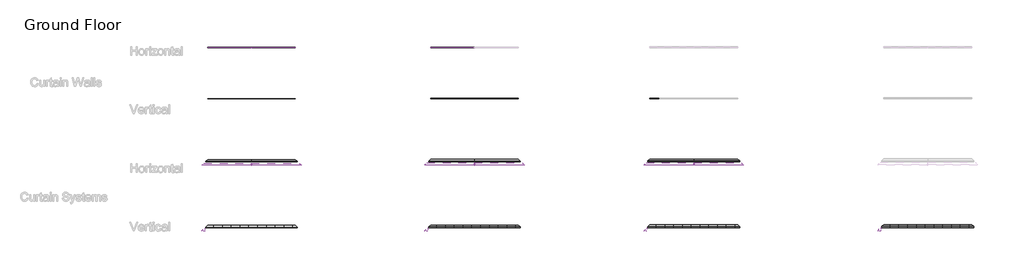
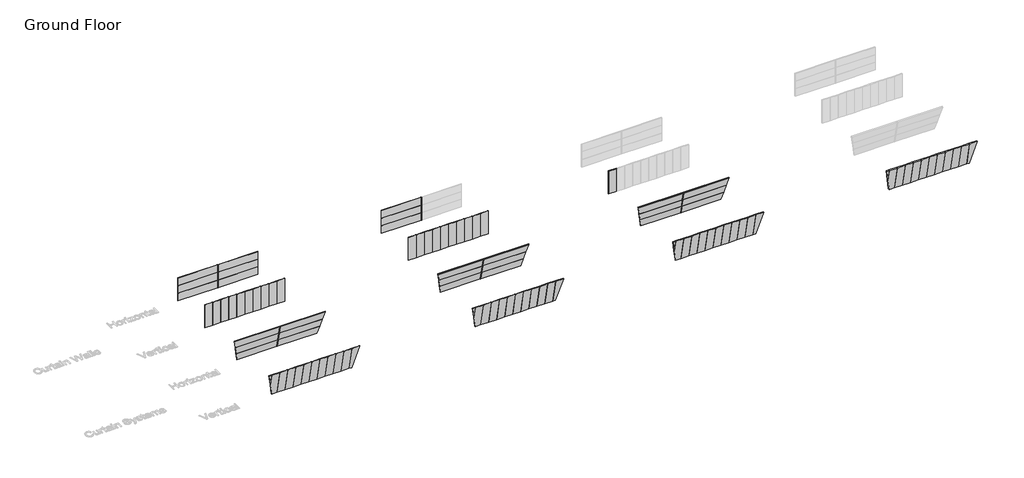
# One storey, part 1 of 9: 102 plates, 18 members.
"""IFC4 building model written with IfcOpenShell, lengths in millimetres."""

from ifc_helpers import new_model, si_unit, origin, place, context, project, spatial, transform, mapped, element, save
from components import rectangular_mullion_pi_mullion_20gap_50depth_70width_142a5764, rectangular_mullion_pi_mullion_20gap_50depth_70width_9113199f, rectangular_mullion_pi_mullion_20gap_50depth_70width_d0ed6173, system_panel_8d9bcd60, system_panel_b93e07dd, system_panel_ced8f9d4, system_panel_d58b1396, system_panel_276d5853, system_panel_b8428c64, system_panel_244e55d7, system_panel_0e52adfc, system_panel_2103b3a6, system_panel_ce3216b0, system_panel_0e282976, system_panel_e06f3d7a, system_panel_110e811f, system_panel_6bba82fc, system_panel_1b485f75, system_panel_cb7dd1a5, system_panel_4acd45eb, system_panel_78934fff, system_panel_72fa3ca7, system_panel_3fc49958, system_panel_d652f9f4, system_panel_3d751c13, system_panel_4883f5bf, system_panel_101b86df, system_panel_32c90c44, system_panel_d230c9b8, system_panel_7c3fa75b, system_panel_0fe4f62d, system_panel_25976524, system_panel_a48a017a, system_panel_09f4cd06, system_panel_fafe6fdc, system_panel_5e4a4081, system_panel_ca416656, system_panel_57769627, system_panel_d40e5325, system_panel_f51c096d, system_panel_121b9ab8, system_panel_6a607702, system_panel_575ef650, system_panel_7e135db5, system_panel_39dc967e, system_panel_6e7626b0, system_panel_ea4dad86, system_panel_5c141952

model = new_model("IFC4")

# Units and contexts
model_context = context("Model", 3, world=origin())
ifc_project = project(units=[si_unit("LENGTHUNIT", "METRE", prefix="MILLI")], contexts=[model_context])

# Site, building, storey
site = spatial("IfcSite", under=ifc_project)
building = spatial("IfcBuilding", under=site)
storey = spatial("IfcBuildingStorey", under=building, Name="Ground Floor", Elevation=0.0)

# Members
placement = place(None, origin())
rectangular_mullion_pi_mullion_20gap_50depth_70width_shape = rectangular_mullion_pi_mullion_20gap_50depth_70width_142a5764(model_context)
element("IfcMember", 1, ObjectType="Rectangular Mullion : PI-Mullion - 20Gap-50Depth-70Width", at=placement, inside=storey, context=model_context, shape_type="MappedRepresentation", body=[
    mapped(rectangular_mullion_pi_mullion_20gap_50depth_70width_shape, transform((29629.2463003, 1262.9233771, 3600.0), x_axis=(-1.0, 0.0, 0.0), y_axis=(0.0, -0.978268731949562, -0.20734099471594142), z_axis=(0.0, -0.20734099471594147, 0.9782687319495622))),
])
element("IfcMember", 2, ObjectType="Rectangular Mullion : PI-Mullion - 20Gap-50Depth-70Width", at=placement, inside=storey, context=model_context, shape_type="MappedRepresentation", body=[
    mapped(rectangular_mullion_pi_mullion_20gap_50depth_70width_shape, transform((-870.7536997, 1262.9233771, 3600.0), x_axis=(-1.0, 0.0, 0.0), y_axis=(0.0, -0.978268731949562, -0.20734099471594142), z_axis=(0.0, -0.20734099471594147, 0.9782687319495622))),
])
element("IfcMember", 3, ObjectType="Rectangular Mullion : PI-Mullion - 20Gap-50Depth-70Width", at=placement, inside=storey, context=model_context, shape_type="MappedRepresentation", body=[
    mapped(rectangular_mullion_pi_mullion_20gap_50depth_70width_shape, transform((59629.2463003, 1262.9233771, 3600.0), x_axis=(-1.0, 0.0, 0.0), y_axis=(0.0, -0.978268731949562, -0.20734099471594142), z_axis=(0.0, -0.20734099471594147, 0.9782687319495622))),
])
rectangular_mullion_pi_mullion_20gap_50depth_70width_2_shape = rectangular_mullion_pi_mullion_20gap_50depth_70width_9113199f(model_context)
element("IfcMember", 4, ObjectType="Rectangular Mullion : PI-Mullion - 20Gap-50Depth-70Width", at=placement, inside=storey, context=model_context, shape_type="MappedRepresentation", body=[
    mapped(rectangular_mullion_pi_mullion_20gap_50depth_70width_2_shape, transform((29629.2463003, 1777.1229116, 1173.9224783), x_axis=(-1.0, 0.0, 0.0), y_axis=(0.0, -0.978268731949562, -0.20734099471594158), z_axis=(0.0, -0.20734099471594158, 0.978268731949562))),
])
element("IfcMember", 5, ObjectType="Rectangular Mullion : PI-Mullion - 20Gap-50Depth-70Width", at=placement, inside=storey, context=model_context, shape_type="MappedRepresentation", body=[
    mapped(rectangular_mullion_pi_mullion_20gap_50depth_70width_2_shape, transform((-870.7536997, 1777.1229116, 1173.9224783), x_axis=(-1.0, 0.0, 0.0), y_axis=(0.0, -0.978268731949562, -0.20734099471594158), z_axis=(0.0, -0.20734099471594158, 0.978268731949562))),
])
element("IfcMember", 6, ObjectType="Rectangular Mullion : PI-Mullion - 20Gap-50Depth-70Width", at=placement, inside=storey, context=model_context, shape_type="MappedRepresentation", body=[
    mapped(rectangular_mullion_pi_mullion_20gap_50depth_70width_2_shape, transform((59629.2463003, 1777.1229116, 1173.9224783), x_axis=(-1.0, 0.0, 0.0), y_axis=(0.0, -0.978268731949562, -0.20734099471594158), z_axis=(0.0, -0.20734099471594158, 0.978268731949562))),
])
element("IfcMember", 7, ObjectType="Rectangular Mullion : PI-Mullion - 20Gap-50Depth-70Width", at=placement, inside=storey, context=model_context, shape_type="MappedRepresentation", body=[
    mapped(rectangular_mullion_pi_mullion_20gap_50depth_70width_2_shape, transform((29629.2463003, 1528.313718, 2347.8449567), x_axis=(-1.0, 0.0, 0.0), y_axis=(0.0, -0.978268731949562, -0.2073409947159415), z_axis=(0.0, -0.2073409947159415, 0.978268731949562))),
])
element("IfcMember", 8, ObjectType="Rectangular Mullion : PI-Mullion - 20Gap-50Depth-70Width", at=placement, inside=storey, context=model_context, shape_type="MappedRepresentation", body=[
    mapped(rectangular_mullion_pi_mullion_20gap_50depth_70width_2_shape, transform((29629.2463003, 1279.5045243, 3521.767435), x_axis=(-1.0, 0.0, 0.0), y_axis=(0.0, -0.978268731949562, -0.20734099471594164), z_axis=(0.0, -0.2073409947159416, 0.9782687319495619))),
])
element("IfcMember", 9, ObjectType="Rectangular Mullion : PI-Mullion - 20Gap-50Depth-70Width", at=placement, inside=storey, context=model_context, shape_type="MappedRepresentation", body=[
    mapped(rectangular_mullion_pi_mullion_20gap_50depth_70width_2_shape, transform((-870.7536997, 1528.313718, 2347.8449567), x_axis=(-1.0, 0.0, 0.0), y_axis=(0.0, -0.978268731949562, -0.2073409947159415), z_axis=(0.0, -0.2073409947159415, 0.978268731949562))),
])
element("IfcMember", 10, ObjectType="Rectangular Mullion : PI-Mullion - 20Gap-50Depth-70Width", at=placement, inside=storey, context=model_context, shape_type="MappedRepresentation", body=[
    mapped(rectangular_mullion_pi_mullion_20gap_50depth_70width_2_shape, transform((-870.7536997, 1279.5045243, 3521.767435), x_axis=(-1.0, 0.0, 0.0), y_axis=(0.0, -0.978268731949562, -0.20734099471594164), z_axis=(0.0, -0.2073409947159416, 0.9782687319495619))),
])
element("IfcMember", 11, ObjectType="Rectangular Mullion : PI-Mullion - 20Gap-50Depth-70Width", at=placement, inside=storey, context=model_context, shape_type="MappedRepresentation", body=[
    mapped(rectangular_mullion_pi_mullion_20gap_50depth_70width_2_shape, transform((59629.2463003, 1528.313718, 2347.8449567), x_axis=(-1.0, 0.0, 0.0), y_axis=(0.0, -0.978268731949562, -0.2073409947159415), z_axis=(0.0, -0.2073409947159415, 0.978268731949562))),
])
element("IfcMember", 12, ObjectType="Rectangular Mullion : PI-Mullion - 20Gap-50Depth-70Width", at=placement, inside=storey, context=model_context, shape_type="MappedRepresentation", body=[
    mapped(rectangular_mullion_pi_mullion_20gap_50depth_70width_2_shape, transform((59629.2463003, 1279.5045243, 3521.767435), x_axis=(-1.0, 0.0, 0.0), y_axis=(0.0, -0.978268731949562, -0.20734099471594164), z_axis=(0.0, -0.2073409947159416, 0.9782687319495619))),
])
rectangular_mullion_pi_mullion_20gap_50depth_70width_3_shape = rectangular_mullion_pi_mullion_20gap_50depth_70width_d0ed6173(model_context)
element("IfcMember", 13, ObjectType="Rectangular Mullion : PI-Mullion - 20Gap-50Depth-70Width", at=placement, inside=storey, context=model_context, shape_type="MappedRepresentation", body=[
    mapped(rectangular_mullion_pi_mullion_20gap_50depth_70width_3_shape, transform((-870.7536997, 17365.9321053, 0.0), x_axis=(1.0, 0.0, 0.0), y_axis=(0.0, -1.0, 0.0), z_axis=(0.0, 0.0, -1.0))),
])
element("IfcMember", 14, ObjectType="Rectangular Mullion : PI-Mullion - 20Gap-50Depth-70Width", at=placement, inside=storey, context=model_context, shape_type="MappedRepresentation", body=[
    mapped(rectangular_mullion_pi_mullion_20gap_50depth_70width_3_shape, transform((29629.2463003, 17365.9321053, 0.0), x_axis=(1.0, 0.0, 0.0), y_axis=(0.0, -1.0, 0.0), z_axis=(0.0, 0.0, -1.0))),
])
element("IfcMember", 15, ObjectType="Rectangular Mullion : PI-Mullion - 20Gap-50Depth-70Width", at=placement, inside=storey, context=model_context, shape_type="MappedRepresentation", body=[
    mapped(rectangular_mullion_pi_mullion_20gap_50depth_70width_3_shape, transform((-870.7536997, 17365.9321053, 1200.0), x_axis=(1.0, 0.0, 0.0), y_axis=(0.0, -1.0, 0.0), z_axis=(0.0, 0.0, -1.0))),
])
element("IfcMember", 16, ObjectType="Rectangular Mullion : PI-Mullion - 20Gap-50Depth-70Width", at=placement, inside=storey, context=model_context, shape_type="MappedRepresentation", body=[
    mapped(rectangular_mullion_pi_mullion_20gap_50depth_70width_3_shape, transform((29629.2463003, 17365.9321053, 1200.0), x_axis=(1.0, 0.0, 0.0), y_axis=(0.0, -1.0, 0.0), z_axis=(0.0, 0.0, -1.0))),
])
element("IfcMember", 17, ObjectType="Rectangular Mullion : PI-Mullion - 20Gap-50Depth-70Width", at=placement, inside=storey, context=model_context, shape_type="MappedRepresentation", body=[
    mapped(rectangular_mullion_pi_mullion_20gap_50depth_70width_3_shape, transform((-870.7536997, 17365.9321053, 2400.0), x_axis=(1.0, 0.0, 0.0), y_axis=(0.0, -1.0, 0.0), z_axis=(0.0, 0.0, -1.0))),
])
element("IfcMember", 18, ObjectType="Rectangular Mullion : PI-Mullion - 20Gap-50Depth-70Width", at=placement, inside=storey, context=model_context, shape_type="MappedRepresentation", body=[
    mapped(rectangular_mullion_pi_mullion_20gap_50depth_70width_3_shape, transform((29629.2463003, 17365.9321053, 2400.0), x_axis=(1.0, 0.0, 0.0), y_axis=(0.0, -1.0, 0.0), z_axis=(0.0, 0.0, -1.0))),
])

# Plates
system_panel_shape = system_panel_8d9bcd60(model_context)
element("IfcPlate", 19, ObjectType="System Panel : Equitilt_FlameGuard_50mm_Plain_Surfmist", at=placement, inside=storey, context=model_context, shape_type="MappedRepresentation", body=[
    mapped(system_panel_shape, transform((5329.2463003, -6974.0678947, 0.0), x_axis=(-1.0, 0.0, 0.0), y_axis=(0.0, -0.978268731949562, -0.20734099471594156), z_axis=(0.0, -0.20734099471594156, 0.978268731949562))),
])
system_panel_2_shape = system_panel_b93e07dd(model_context)
element("IfcPlate", 20, ObjectType="System Panel : Equitilt_FlameGuard_50mm_Plain_Surfmist", at=placement, inside=storey, context=model_context, shape_type="MappedRepresentation", body=[
    mapped(system_panel_2_shape, transform((4129.2463003, -6974.0678947, 0.0), x_axis=(-1.0, 0.0, 0.0), y_axis=(0.0, -0.978268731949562, -0.20734099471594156), z_axis=(0.0, -0.20734099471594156, 0.978268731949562))),
])
element("IfcPlate", 21, ObjectType="System Panel : Equitilt_FlameGuard_50mm_Plain_Surfmist", at=placement, inside=storey, context=model_context, shape_type="MappedRepresentation", body=[
    mapped(system_panel_2_shape, transform((2929.2463003, -6974.0678947, 0.0), x_axis=(-1.0, 0.0, 0.0), y_axis=(0.0, -0.978268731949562, -0.20734099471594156), z_axis=(0.0, -0.20734099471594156, 0.978268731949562))),
])
element("IfcPlate", 22, ObjectType="System Panel : Equitilt_FlameGuard_50mm_Plain_Surfmist", at=placement, inside=storey, context=model_context, shape_type="MappedRepresentation", body=[
    mapped(system_panel_2_shape, transform((1729.2463003, -6974.0678947, 0.0), x_axis=(-1.0, 0.0, 0.0), y_axis=(0.0, -0.978268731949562, -0.20734099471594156), z_axis=(0.0, -0.20734099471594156, 0.978268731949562))),
])
element("IfcPlate", 23, ObjectType="System Panel : Equitilt_FlameGuard_50mm_Plain_Surfmist", at=placement, inside=storey, context=model_context, shape_type="MappedRepresentation", body=[
    mapped(system_panel_2_shape, transform((529.2463003, -6974.0678947, 0.0), x_axis=(-1.0, 0.0, 0.0), y_axis=(0.0, -0.978268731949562, -0.20734099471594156), z_axis=(0.0, -0.20734099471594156, 0.978268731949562))),
])
element("IfcPlate", 24, ObjectType="System Panel : Equitilt_FlameGuard_50mm_Plain_Surfmist", at=placement, inside=storey, context=model_context, shape_type="MappedRepresentation", body=[
    mapped(system_panel_2_shape, transform((-670.7536997, -6974.0678947, 0.0), x_axis=(-1.0, 0.0, 0.0), y_axis=(0.0, -0.978268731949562, -0.20734099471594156), z_axis=(0.0, -0.20734099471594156, 0.978268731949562))),
])
element("IfcPlate", 25, ObjectType="System Panel : Equitilt_FlameGuard_50mm_Plain_Surfmist", at=placement, inside=storey, context=model_context, shape_type="MappedRepresentation", body=[
    mapped(system_panel_2_shape, transform((-1870.7536997, -6974.0678947, 0.0), x_axis=(-1.0, 0.0, 0.0), y_axis=(0.0, -0.978268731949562, -0.20734099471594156), z_axis=(0.0, -0.20734099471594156, 0.978268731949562))),
])
element("IfcPlate", 26, ObjectType="System Panel : Equitilt_FlameGuard_50mm_Plain_Surfmist", at=placement, inside=storey, context=model_context, shape_type="MappedRepresentation", body=[
    mapped(system_panel_2_shape, transform((-3070.7536997, -6974.0678947, 0.0), x_axis=(-1.0, 0.0, 0.0), y_axis=(0.0, -0.978268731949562, -0.20734099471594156), z_axis=(0.0, -0.20734099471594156, 0.978268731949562))),
])
element("IfcPlate", 27, ObjectType="System Panel : Equitilt_FlameGuard_50mm_Plain_Surfmist", at=placement, inside=storey, context=model_context, shape_type="MappedRepresentation", body=[
    mapped(system_panel_2_shape, transform((-4270.7536997, -6974.0678947, 0.0), x_axis=(-1.0, 0.0, 0.0), y_axis=(0.0, -0.978268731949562, -0.20734099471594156), z_axis=(0.0, -0.20734099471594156, 0.978268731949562))),
])
element("IfcPlate", 28, ObjectType="System Panel : Equitilt_FlameGuard_50mm_Plain_Surfmist", at=placement, inside=storey, context=model_context, shape_type="MappedRepresentation", body=[
    mapped(system_panel_2_shape, transform((-5470.7536997, -6974.0678947, 0.0), x_axis=(-1.0, 0.0, 0.0), y_axis=(0.0, -0.978268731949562, -0.20734099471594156), z_axis=(0.0, -0.20734099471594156, 0.978268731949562))),
])
system_panel_3_shape = system_panel_ced8f9d4(model_context)
element("IfcPlate", 29, ObjectType="System Panel : Equitilt_FlameGuard_50mm_Plain_Surfmist", at=placement, inside=storey, context=model_context, shape_type="MappedRepresentation", body=[
    mapped(system_panel_3_shape, transform((-6670.7536997, -6974.0678947, 0.0), x_axis=(-1.0, 0.0, 0.0), y_axis=(0.0, -0.978268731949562, -0.20734099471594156), z_axis=(0.0, -0.20734099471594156, 0.978268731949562))),
])
system_panel_4_shape = system_panel_d58b1396(model_context)
element("IfcPlate", 30, ObjectType="System Panel : Equitilt_FlameGuard_50mm_Plain_Surfmist", at=placement, inside=storey, context=model_context, shape_type="MappedRepresentation", body=[
    mapped(system_panel_4_shape, transform((-7470.7536997, -7355.5722588, 1800.0), x_axis=(-1.0, 0.0, 0.0), y_axis=(0.0, -0.978268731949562, -0.20734099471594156), z_axis=(0.0, -0.20734099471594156, 0.978268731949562))),
])
system_panel_5_shape = system_panel_276d5853(model_context)
element("IfcPlate", 31, ObjectType="System Panel : Equitilt_FlameGuard_75mm_Plain_Surfmist", at=placement, inside=storey, context=model_context, shape_type="MappedRepresentation", body=[
    mapped(system_panel_5_shape, transform((35829.2463003, -6974.0678947, 0.0), x_axis=(-1.0, 0.0, 0.0), y_axis=(0.0, -0.978268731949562, -0.20734099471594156), z_axis=(0.0, -0.20734099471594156, 0.978268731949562))),
])
system_panel_6_shape = system_panel_b8428c64(model_context)
element("IfcPlate", 32, ObjectType="System Panel : Equitilt_FlameGuard_75mm_Plain_Surfmist", at=placement, inside=storey, context=model_context, shape_type="MappedRepresentation", body=[
    mapped(system_panel_6_shape, transform((34629.2463003, -6974.0678947, 0.0), x_axis=(-1.0, 0.0, 0.0), y_axis=(0.0, -0.978268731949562, -0.20734099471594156), z_axis=(0.0, -0.20734099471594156, 0.978268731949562))),
])
element("IfcPlate", 33, ObjectType="System Panel : Equitilt_FlameGuard_75mm_Plain_Surfmist", at=placement, inside=storey, context=model_context, shape_type="MappedRepresentation", body=[
    mapped(system_panel_6_shape, transform((33429.2463003, -6974.0678947, 0.0), x_axis=(-1.0, 0.0, 0.0), y_axis=(0.0, -0.978268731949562, -0.20734099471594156), z_axis=(0.0, -0.20734099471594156, 0.978268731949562))),
])
element("IfcPlate", 34, ObjectType="System Panel : Equitilt_FlameGuard_75mm_Plain_Surfmist", at=placement, inside=storey, context=model_context, shape_type="MappedRepresentation", body=[
    mapped(system_panel_6_shape, transform((32229.2463003, -6974.0678947, 0.0), x_axis=(-1.0, 0.0, 0.0), y_axis=(0.0, -0.978268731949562, -0.20734099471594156), z_axis=(0.0, -0.20734099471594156, 0.978268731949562))),
])
element("IfcPlate", 35, ObjectType="System Panel : Equitilt_FlameGuard_75mm_Plain_Surfmist", at=placement, inside=storey, context=model_context, shape_type="MappedRepresentation", body=[
    mapped(system_panel_6_shape, transform((31029.2463003, -6974.0678947, 0.0), x_axis=(-1.0, 0.0, 0.0), y_axis=(0.0, -0.978268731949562, -0.20734099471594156), z_axis=(0.0, -0.20734099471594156, 0.978268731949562))),
])
element("IfcPlate", 36, ObjectType="System Panel : Equitilt_FlameGuard_75mm_Plain_Surfmist", at=placement, inside=storey, context=model_context, shape_type="MappedRepresentation", body=[
    mapped(system_panel_6_shape, transform((29829.2463003, -6974.0678947, 0.0), x_axis=(-1.0, 0.0, 0.0), y_axis=(0.0, -0.978268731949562, -0.20734099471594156), z_axis=(0.0, -0.20734099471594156, 0.978268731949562))),
])
element("IfcPlate", 37, ObjectType="System Panel : Equitilt_FlameGuard_75mm_Plain_Surfmist", at=placement, inside=storey, context=model_context, shape_type="MappedRepresentation", body=[
    mapped(system_panel_6_shape, transform((28629.2463003, -6974.0678947, 0.0), x_axis=(-1.0, 0.0, 0.0), y_axis=(0.0, -0.978268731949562, -0.20734099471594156), z_axis=(0.0, -0.20734099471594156, 0.978268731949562))),
])
element("IfcPlate", 38, ObjectType="System Panel : Equitilt_FlameGuard_75mm_Plain_Surfmist", at=placement, inside=storey, context=model_context, shape_type="MappedRepresentation", body=[
    mapped(system_panel_6_shape, transform((27429.2463003, -6974.0678947, 0.0), x_axis=(-1.0, 0.0, 0.0), y_axis=(0.0, -0.978268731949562, -0.20734099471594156), z_axis=(0.0, -0.20734099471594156, 0.978268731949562))),
])
element("IfcPlate", 39, ObjectType="System Panel : Equitilt_FlameGuard_75mm_Plain_Surfmist", at=placement, inside=storey, context=model_context, shape_type="MappedRepresentation", body=[
    mapped(system_panel_6_shape, transform((26229.2463003, -6974.0678947, 0.0), x_axis=(-1.0, 0.0, 0.0), y_axis=(0.0, -0.978268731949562, -0.20734099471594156), z_axis=(0.0, -0.20734099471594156, 0.978268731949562))),
])
element("IfcPlate", 40, ObjectType="System Panel : Equitilt_FlameGuard_75mm_Plain_Surfmist", at=placement, inside=storey, context=model_context, shape_type="MappedRepresentation", body=[
    mapped(system_panel_6_shape, transform((25029.2463003, -6974.0678947, 0.0), x_axis=(-1.0, 0.0, 0.0), y_axis=(0.0, -0.978268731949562, -0.20734099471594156), z_axis=(0.0, -0.20734099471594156, 0.978268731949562))),
])
system_panel_7_shape = system_panel_244e55d7(model_context)
element("IfcPlate", 41, ObjectType="System Panel : Equitilt_FlameGuard_75mm_Plain_Surfmist", at=placement, inside=storey, context=model_context, shape_type="MappedRepresentation", body=[
    mapped(system_panel_7_shape, transform((23829.2463003, -6974.0678947, 0.0), x_axis=(-1.0, 0.0, 0.0), y_axis=(0.0, -0.978268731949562, -0.20734099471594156), z_axis=(0.0, -0.20734099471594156, 0.978268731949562))),
])
system_panel_8_shape = system_panel_0e52adfc(model_context)
element("IfcPlate", 42, ObjectType="System Panel : Equitilt_FlameGuard_75mm_Plain_Surfmist", at=placement, inside=storey, context=model_context, shape_type="MappedRepresentation", body=[
    mapped(system_panel_8_shape, transform((23029.2463003, -7355.5722588, 1800.0), x_axis=(-1.0, 0.0, 0.0), y_axis=(0.0, -0.978268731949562, -0.20734099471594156), z_axis=(0.0, -0.20734099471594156, 0.978268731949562))),
])
system_panel_9_shape = system_panel_2103b3a6(model_context)
element("IfcPlate", 43, ObjectType="System Panel : Equitilt_FlameGuard_100mm_Plain_Surfmist", at=placement, inside=storey, context=model_context, shape_type="MappedRepresentation", body=[
    mapped(system_panel_9_shape, transform((65829.2463003, -6974.0678947, 0.0), x_axis=(-1.0, 0.0, 0.0), y_axis=(0.0, -0.978268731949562, -0.20734099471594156), z_axis=(0.0, -0.20734099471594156, 0.978268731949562))),
])
system_panel_10_shape = system_panel_ce3216b0(model_context)
element("IfcPlate", 44, ObjectType="System Panel : Equitilt_FlameGuard_100mm_Plain_Surfmist", at=placement, inside=storey, context=model_context, shape_type="MappedRepresentation", body=[
    mapped(system_panel_10_shape, transform((64629.2463003, -6974.0678947, 0.0), x_axis=(-1.0, 0.0, 0.0), y_axis=(0.0, -0.978268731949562, -0.20734099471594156), z_axis=(0.0, -0.20734099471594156, 0.978268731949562))),
])
element("IfcPlate", 45, ObjectType="System Panel : Equitilt_FlameGuard_100mm_Plain_Surfmist", at=placement, inside=storey, context=model_context, shape_type="MappedRepresentation", body=[
    mapped(system_panel_10_shape, transform((63429.2463003, -6974.0678947, 0.0), x_axis=(-1.0, 0.0, 0.0), y_axis=(0.0, -0.978268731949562, -0.20734099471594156), z_axis=(0.0, -0.20734099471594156, 0.978268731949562))),
])
element("IfcPlate", 46, ObjectType="System Panel : Equitilt_FlameGuard_100mm_Plain_Surfmist", at=placement, inside=storey, context=model_context, shape_type="MappedRepresentation", body=[
    mapped(system_panel_10_shape, transform((62229.2463003, -6974.0678947, 0.0), x_axis=(-1.0, 0.0, 0.0), y_axis=(0.0, -0.978268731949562, -0.20734099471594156), z_axis=(0.0, -0.20734099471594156, 0.978268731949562))),
])
element("IfcPlate", 47, ObjectType="System Panel : Equitilt_FlameGuard_100mm_Plain_Surfmist", at=placement, inside=storey, context=model_context, shape_type="MappedRepresentation", body=[
    mapped(system_panel_10_shape, transform((61029.2463003, -6974.0678947, 0.0), x_axis=(-1.0, 0.0, 0.0), y_axis=(0.0, -0.978268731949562, -0.20734099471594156), z_axis=(0.0, -0.20734099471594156, 0.978268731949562))),
])
element("IfcPlate", 48, ObjectType="System Panel : Equitilt_FlameGuard_100mm_Plain_Surfmist", at=placement, inside=storey, context=model_context, shape_type="MappedRepresentation", body=[
    mapped(system_panel_10_shape, transform((59829.2463003, -6974.0678947, 0.0), x_axis=(-1.0, 0.0, 0.0), y_axis=(0.0, -0.978268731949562, -0.20734099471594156), z_axis=(0.0, -0.20734099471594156, 0.978268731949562))),
])
element("IfcPlate", 49, ObjectType="System Panel : Equitilt_FlameGuard_100mm_Plain_Surfmist", at=placement, inside=storey, context=model_context, shape_type="MappedRepresentation", body=[
    mapped(system_panel_10_shape, transform((58629.2463003, -6974.0678947, 0.0), x_axis=(-1.0, 0.0, 0.0), y_axis=(0.0, -0.978268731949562, -0.20734099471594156), z_axis=(0.0, -0.20734099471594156, 0.978268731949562))),
])
element("IfcPlate", 50, ObjectType="System Panel : Equitilt_FlameGuard_100mm_Plain_Surfmist", at=placement, inside=storey, context=model_context, shape_type="MappedRepresentation", body=[
    mapped(system_panel_10_shape, transform((57429.2463003, -6974.0678947, 0.0), x_axis=(-1.0, 0.0, 0.0), y_axis=(0.0, -0.978268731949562, -0.20734099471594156), z_axis=(0.0, -0.20734099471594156, 0.978268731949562))),
])
element("IfcPlate", 51, ObjectType="System Panel : Equitilt_FlameGuard_100mm_Plain_Surfmist", at=placement, inside=storey, context=model_context, shape_type="MappedRepresentation", body=[
    mapped(system_panel_10_shape, transform((56229.2463003, -6974.0678947, 0.0), x_axis=(-1.0, 0.0, 0.0), y_axis=(0.0, -0.978268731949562, -0.20734099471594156), z_axis=(0.0, -0.20734099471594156, 0.978268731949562))),
])
element("IfcPlate", 52, ObjectType="System Panel : Equitilt_FlameGuard_100mm_Plain_Surfmist", at=placement, inside=storey, context=model_context, shape_type="MappedRepresentation", body=[
    mapped(system_panel_10_shape, transform((55029.2463003, -6974.0678947, 0.0), x_axis=(-1.0, 0.0, 0.0), y_axis=(0.0, -0.978268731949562, -0.20734099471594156), z_axis=(0.0, -0.20734099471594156, 0.978268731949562))),
])
system_panel_11_shape = system_panel_0e282976(model_context)
element("IfcPlate", 53, ObjectType="System Panel : Equitilt_FlameGuard_100mm_Plain_Surfmist", at=placement, inside=storey, context=model_context, shape_type="MappedRepresentation", body=[
    mapped(system_panel_11_shape, transform((53829.2463003, -6974.0678947, 0.0), x_axis=(-1.0, 0.0, 0.0), y_axis=(0.0, -0.978268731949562, -0.20734099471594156), z_axis=(0.0, -0.20734099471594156, 0.978268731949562))),
])
system_panel_12_shape = system_panel_e06f3d7a(model_context)
element("IfcPlate", 54, ObjectType="System Panel : Equitilt_FlameGuard_100mm_Plain_Surfmist", at=placement, inside=storey, context=model_context, shape_type="MappedRepresentation", body=[
    mapped(system_panel_12_shape, transform((53029.2463003, -7355.5722588, 1800.0), x_axis=(-1.0, 0.0, 0.0), y_axis=(0.0, -0.978268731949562, -0.20734099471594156), z_axis=(0.0, -0.20734099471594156, 0.978268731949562))),
])
system_panel_13_shape = system_panel_110e811f(model_context)
element("IfcPlate", 55, ObjectType="System Panel : Equitilt_FlameGuard_150mm_Plain_Surfmist", at=placement, inside=storey, context=model_context, shape_type="MappedRepresentation", body=[
    mapped(system_panel_13_shape, transform((97829.2463003, -6974.0678947, 0.0), x_axis=(-1.0, 0.0, 0.0), y_axis=(0.0, -0.978268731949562, -0.20734099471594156), z_axis=(0.0, -0.20734099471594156, 0.978268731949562))),
])
system_panel_14_shape = system_panel_6bba82fc(model_context)
element("IfcPlate", 56, ObjectType="System Panel : Equitilt_FlameGuard_150mm_Plain_Surfmist", at=placement, inside=storey, context=model_context, shape_type="MappedRepresentation", body=[
    mapped(system_panel_14_shape, transform((96629.2463003, -6974.0678947, 0.0), x_axis=(-1.0, 0.0, 0.0), y_axis=(0.0, -0.978268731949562, -0.20734099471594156), z_axis=(0.0, -0.20734099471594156, 0.978268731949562))),
])
element("IfcPlate", 57, ObjectType="System Panel : Equitilt_FlameGuard_150mm_Plain_Surfmist", at=placement, inside=storey, context=model_context, shape_type="MappedRepresentation", body=[
    mapped(system_panel_14_shape, transform((95429.2463003, -6974.0678947, 0.0), x_axis=(-1.0, 0.0, 0.0), y_axis=(0.0, -0.978268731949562, -0.20734099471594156), z_axis=(0.0, -0.20734099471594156, 0.978268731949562))),
])
element("IfcPlate", 58, ObjectType="System Panel : Equitilt_FlameGuard_150mm_Plain_Surfmist", at=placement, inside=storey, context=model_context, shape_type="MappedRepresentation", body=[
    mapped(system_panel_14_shape, transform((94229.2463003, -6974.0678947, 0.0), x_axis=(-1.0, 0.0, 0.0), y_axis=(0.0, -0.978268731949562, -0.20734099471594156), z_axis=(0.0, -0.20734099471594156, 0.978268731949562))),
])
element("IfcPlate", 59, ObjectType="System Panel : Equitilt_FlameGuard_150mm_Plain_Surfmist", at=placement, inside=storey, context=model_context, shape_type="MappedRepresentation", body=[
    mapped(system_panel_14_shape, transform((93029.2463003, -6974.0678947, 0.0), x_axis=(-1.0, 0.0, 0.0), y_axis=(0.0, -0.978268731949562, -0.20734099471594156), z_axis=(0.0, -0.20734099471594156, 0.978268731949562))),
])
element("IfcPlate", 60, ObjectType="System Panel : Equitilt_FlameGuard_150mm_Plain_Surfmist", at=placement, inside=storey, context=model_context, shape_type="MappedRepresentation", body=[
    mapped(system_panel_14_shape, transform((91829.2463003, -6974.0678947, 0.0), x_axis=(-1.0, 0.0, 0.0), y_axis=(0.0, -0.978268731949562, -0.20734099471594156), z_axis=(0.0, -0.20734099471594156, 0.978268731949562))),
])
element("IfcPlate", 61, ObjectType="System Panel : Equitilt_FlameGuard_150mm_Plain_Surfmist", at=placement, inside=storey, context=model_context, shape_type="MappedRepresentation", body=[
    mapped(system_panel_14_shape, transform((90629.2463003, -6974.0678947, 0.0), x_axis=(-1.0, 0.0, 0.0), y_axis=(0.0, -0.978268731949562, -0.20734099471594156), z_axis=(0.0, -0.20734099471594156, 0.978268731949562))),
])
element("IfcPlate", 62, ObjectType="System Panel : Equitilt_FlameGuard_150mm_Plain_Surfmist", at=placement, inside=storey, context=model_context, shape_type="MappedRepresentation", body=[
    mapped(system_panel_14_shape, transform((89429.2463003, -6974.0678947, 0.0), x_axis=(-1.0, 0.0, 0.0), y_axis=(0.0, -0.978268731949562, -0.20734099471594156), z_axis=(0.0, -0.20734099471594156, 0.978268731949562))),
])
element("IfcPlate", 63, ObjectType="System Panel : Equitilt_FlameGuard_150mm_Plain_Surfmist", at=placement, inside=storey, context=model_context, shape_type="MappedRepresentation", body=[
    mapped(system_panel_14_shape, transform((88229.2463003, -6974.0678947, 0.0), x_axis=(-1.0, 0.0, 0.0), y_axis=(0.0, -0.978268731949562, -0.20734099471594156), z_axis=(0.0, -0.20734099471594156, 0.978268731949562))),
])
element("IfcPlate", 64, ObjectType="System Panel : Equitilt_FlameGuard_150mm_Plain_Surfmist", at=placement, inside=storey, context=model_context, shape_type="MappedRepresentation", body=[
    mapped(system_panel_14_shape, transform((87029.2463003, -6974.0678947, 0.0), x_axis=(-1.0, 0.0, 0.0), y_axis=(0.0, -0.978268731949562, -0.20734099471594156), z_axis=(0.0, -0.20734099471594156, 0.978268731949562))),
])
system_panel_15_shape = system_panel_1b485f75(model_context)
element("IfcPlate", 65, ObjectType="System Panel : Equitilt_FlameGuard_150mm_Plain_Surfmist", at=placement, inside=storey, context=model_context, shape_type="MappedRepresentation", body=[
    mapped(system_panel_15_shape, transform((85829.2463003, -6974.0678947, 0.0), x_axis=(-1.0, 0.0, 0.0), y_axis=(0.0, -0.978268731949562, -0.20734099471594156), z_axis=(0.0, -0.20734099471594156, 0.978268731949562))),
])
system_panel_16_shape = system_panel_cb7dd1a5(model_context)
element("IfcPlate", 66, ObjectType="System Panel : Equitilt_FlameGuard_150mm_Plain_Surfmist", at=placement, inside=storey, context=model_context, shape_type="MappedRepresentation", body=[
    mapped(system_panel_16_shape, transform((85029.2463003, -7355.5722588, 1800.0), x_axis=(-1.0, 0.0, 0.0), y_axis=(0.0, -0.978268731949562, -0.20734099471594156), z_axis=(0.0, -0.20734099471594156, 0.978268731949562))),
])
system_panel_17_shape = system_panel_4acd45eb(model_context)
element("IfcPlate", 67, ObjectType="System Panel : Equitilt_FlameGuard_50mm_Plain_Surfmist", at=placement, inside=storey, context=model_context, shape_type="MappedRepresentation", body=[
    mapped(system_panel_17_shape, transform((-6270.7536997, 10365.9321053, 0.0), x_axis=(1.0, 0.0, 0.0), y_axis=(0.0, 1.0, 0.0), z_axis=(0.0, 0.0, 1.0))),
])
element("IfcPlate", 68, ObjectType="System Panel : Equitilt_FlameGuard_50mm_Plain_Surfmist", at=placement, inside=storey, context=model_context, shape_type="MappedRepresentation", body=[
    mapped(system_panel_17_shape, transform((-3870.7536997, 10365.9321053, 0.0), x_axis=(1.0, 0.0, 0.0), y_axis=(0.0, 1.0, 0.0), z_axis=(0.0, 0.0, 1.0))),
])
element("IfcPlate", 69, ObjectType="System Panel : Equitilt_FlameGuard_50mm_Plain_Surfmist", at=placement, inside=storey, context=model_context, shape_type="MappedRepresentation", body=[
    mapped(system_panel_17_shape, transform((-2670.7536997, 10365.9321053, 0.0), x_axis=(1.0, 0.0, 0.0), y_axis=(0.0, 1.0, 0.0), z_axis=(0.0, 0.0, 1.0))),
])
element("IfcPlate", 70, ObjectType="System Panel : Equitilt_FlameGuard_50mm_Plain_Surfmist", at=placement, inside=storey, context=model_context, shape_type="MappedRepresentation", body=[
    mapped(system_panel_17_shape, transform((-1470.7536997, 10365.9321053, 0.0), x_axis=(1.0, 0.0, 0.0), y_axis=(0.0, 1.0, 0.0), z_axis=(0.0, 0.0, 1.0))),
])
element("IfcPlate", 71, ObjectType="System Panel : Equitilt_FlameGuard_50mm_Plain_Surfmist", at=placement, inside=storey, context=model_context, shape_type="MappedRepresentation", body=[
    mapped(system_panel_17_shape, transform((-270.7536997, 10365.9321053, 0.0), x_axis=(1.0, 0.0, 0.0), y_axis=(0.0, 1.0, 0.0), z_axis=(0.0, 0.0, 1.0))),
])
element("IfcPlate", 72, ObjectType="System Panel : Equitilt_FlameGuard_50mm_Plain_Surfmist", at=placement, inside=storey, context=model_context, shape_type="MappedRepresentation", body=[
    mapped(system_panel_17_shape, transform((929.2463003, 10365.9321053, 0.0), x_axis=(1.0, 0.0, 0.0), y_axis=(0.0, 1.0, 0.0), z_axis=(0.0, 0.0, 1.0))),
])
element("IfcPlate", 73, ObjectType="System Panel : Equitilt_FlameGuard_50mm_Plain_Surfmist", at=placement, inside=storey, context=model_context, shape_type="MappedRepresentation", body=[
    mapped(system_panel_17_shape, transform((2129.2463003, 10365.9321053, 0.0), x_axis=(1.0, 0.0, 0.0), y_axis=(0.0, 1.0, 0.0), z_axis=(0.0, 0.0, 1.0))),
])
element("IfcPlate", 74, ObjectType="System Panel : Equitilt_FlameGuard_50mm_Plain_Surfmist", at=placement, inside=storey, context=model_context, shape_type="MappedRepresentation", body=[
    mapped(system_panel_17_shape, transform((3329.2463003, 10365.9321053, 0.0), x_axis=(1.0, 0.0, 0.0), y_axis=(0.0, 1.0, 0.0), z_axis=(0.0, 0.0, 1.0))),
])
element("IfcPlate", 75, ObjectType="System Panel : Equitilt_FlameGuard_50mm_Plain_Surfmist", at=placement, inside=storey, context=model_context, shape_type="MappedRepresentation", body=[
    mapped(system_panel_17_shape, transform((4529.2463003, 10365.9321053, 0.0), x_axis=(1.0, 0.0, 0.0), y_axis=(0.0, 1.0, 0.0), z_axis=(0.0, 0.0, 1.0))),
])
element("IfcPlate", 76, ObjectType="System Panel : Equitilt_FlameGuard_50mm_Plain_Surfmist", at=placement, inside=storey, context=model_context, shape_type="MappedRepresentation", body=[
    mapped(system_panel_17_shape, transform((-5070.7536997, 10365.9321053, 0.0), x_axis=(1.0, 0.0, 0.0), y_axis=(0.0, 1.0, 0.0), z_axis=(0.0, 0.0, 1.0))),
])
system_panel_18_shape = system_panel_78934fff(model_context)
element("IfcPlate", 77, ObjectType="System Panel : Equitilt_FlameGuard_100mm_Plain_Surfmist", at=placement, inside=storey, context=model_context, shape_type="MappedRepresentation", body=[
    mapped(system_panel_18_shape, transform((54229.2463003, 10365.9321053, 0.0), x_axis=(1.0, 0.0, 0.0), y_axis=(0.0, 1.0, 0.0), z_axis=(0.0, 0.0, 1.0))),
])
system_panel_19_shape = system_panel_72fa3ca7(model_context)
element("IfcPlate", 78, ObjectType="System Panel : Equitilt_FlameGuard_75mm_Plain_Surfmist", at=placement, inside=storey, context=model_context, shape_type="MappedRepresentation", body=[
    mapped(system_panel_19_shape, transform((24229.2463003, 10365.9321053, 0.0), x_axis=(1.0, 0.0, 0.0), y_axis=(0.0, 1.0, 0.0), z_axis=(0.0, 0.0, 1.0))),
])
element("IfcPlate", 79, ObjectType="System Panel : Equitilt_FlameGuard_75mm_Plain_Surfmist", at=placement, inside=storey, context=model_context, shape_type="MappedRepresentation", body=[
    mapped(system_panel_19_shape, transform((26629.2463003, 10365.9321053, 0.0), x_axis=(1.0, 0.0, 0.0), y_axis=(0.0, 1.0, 0.0), z_axis=(0.0, 0.0, 1.0))),
])
element("IfcPlate", 80, ObjectType="System Panel : Equitilt_FlameGuard_75mm_Plain_Surfmist", at=placement, inside=storey, context=model_context, shape_type="MappedRepresentation", body=[
    mapped(system_panel_19_shape, transform((27829.2463003, 10365.9321053, 0.0), x_axis=(1.0, 0.0, 0.0), y_axis=(0.0, 1.0, 0.0), z_axis=(0.0, 0.0, 1.0))),
])
element("IfcPlate", 81, ObjectType="System Panel : Equitilt_FlameGuard_75mm_Plain_Surfmist", at=placement, inside=storey, context=model_context, shape_type="MappedRepresentation", body=[
    mapped(system_panel_19_shape, transform((29029.2463003, 10365.9321053, 0.0), x_axis=(1.0, 0.0, 0.0), y_axis=(0.0, 1.0, 0.0), z_axis=(0.0, 0.0, 1.0))),
])
element("IfcPlate", 82, ObjectType="System Panel : Equitilt_FlameGuard_75mm_Plain_Surfmist", at=placement, inside=storey, context=model_context, shape_type="MappedRepresentation", body=[
    mapped(system_panel_19_shape, transform((30229.2463003, 10365.9321053, 0.0), x_axis=(1.0, 0.0, 0.0), y_axis=(0.0, 1.0, 0.0), z_axis=(0.0, 0.0, 1.0))),
])
element("IfcPlate", 83, ObjectType="System Panel : Equitilt_FlameGuard_75mm_Plain_Surfmist", at=placement, inside=storey, context=model_context, shape_type="MappedRepresentation", body=[
    mapped(system_panel_19_shape, transform((31429.2463003, 10365.9321053, 0.0), x_axis=(1.0, 0.0, 0.0), y_axis=(0.0, 1.0, 0.0), z_axis=(0.0, 0.0, 1.0))),
])
element("IfcPlate", 84, ObjectType="System Panel : Equitilt_FlameGuard_75mm_Plain_Surfmist", at=placement, inside=storey, context=model_context, shape_type="MappedRepresentation", body=[
    mapped(system_panel_19_shape, transform((32629.2463003, 10365.9321053, 0.0), x_axis=(1.0, 0.0, 0.0), y_axis=(0.0, 1.0, 0.0), z_axis=(0.0, 0.0, 1.0))),
])
element("IfcPlate", 85, ObjectType="System Panel : Equitilt_FlameGuard_75mm_Plain_Surfmist", at=placement, inside=storey, context=model_context, shape_type="MappedRepresentation", body=[
    mapped(system_panel_19_shape, transform((33829.2463003, 10365.9321053, 0.0), x_axis=(1.0, 0.0, 0.0), y_axis=(0.0, 1.0, 0.0), z_axis=(0.0, 0.0, 1.0))),
])
element("IfcPlate", 86, ObjectType="System Panel : Equitilt_FlameGuard_75mm_Plain_Surfmist", at=placement, inside=storey, context=model_context, shape_type="MappedRepresentation", body=[
    mapped(system_panel_19_shape, transform((35029.2463003, 10365.9321053, 0.0), x_axis=(1.0, 0.0, 0.0), y_axis=(0.0, 1.0, 0.0), z_axis=(0.0, 0.0, 1.0))),
])
element("IfcPlate", 87, ObjectType="System Panel : Equitilt_FlameGuard_75mm_Plain_Surfmist", at=placement, inside=storey, context=model_context, shape_type="MappedRepresentation", body=[
    mapped(system_panel_19_shape, transform((25429.2463003, 10365.9321053, 0.0), x_axis=(1.0, 0.0, 0.0), y_axis=(0.0, 1.0, 0.0), z_axis=(0.0, 0.0, 1.0))),
])
system_panel_20_shape = system_panel_3fc49958(model_context)
element("IfcPlate", 88, ObjectType="System Panel : Equitilt_FlameGuard_50mm_Plain_Surfmist", at=placement, inside=storey, context=model_context, shape_type="MappedRepresentation", body=[
    mapped(system_panel_20_shape, transform((2264.6821312, 2025.9321053, 0.0), x_axis=(-1.0, 0.0, 0.0), y_axis=(0.0, -0.978268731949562, -0.20734099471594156), z_axis=(0.0, -0.20734099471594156, 0.978268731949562))),
])
system_panel_21_shape = system_panel_d652f9f4(model_context)
element("IfcPlate", 89, ObjectType="System Panel : Equitilt_FlameGuard_50mm_Plain_Surfmist", at=placement, inside=storey, context=model_context, shape_type="MappedRepresentation", body=[
    mapped(system_panel_21_shape, transform((2395.1179621, 1777.1229116, 1173.9224783), x_axis=(-1.0, 0.0, 0.0), y_axis=(0.0, -0.978268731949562, -0.20734099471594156), z_axis=(0.0, -0.20734099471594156, 0.978268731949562))),
])
system_panel_22_shape = system_panel_3d751c13(model_context)
element("IfcPlate", 90, ObjectType="System Panel : Equitilt_FlameGuard_50mm_Plain_Surfmist", at=placement, inside=storey, context=model_context, shape_type="MappedRepresentation", body=[
    mapped(system_panel_22_shape, transform((2525.553793, 1528.313718, 2347.8449567), x_axis=(-1.0, 0.0, 0.0), y_axis=(0.0, -0.978268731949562, -0.20734099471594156), z_axis=(0.0, -0.20734099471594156, 0.978268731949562))),
])
system_panel_23_shape = system_panel_4883f5bf(model_context)
element("IfcPlate", 91, ObjectType="System Panel : Equitilt_FlameGuard_50mm_Plain_Surfmist", at=placement, inside=storey, context=model_context, shape_type="MappedRepresentation", body=[
    mapped(system_panel_23_shape, transform((2534.2463003, 1279.5045243, 3521.767435), x_axis=(-1.0, 0.0, 0.0), y_axis=(0.0, -0.978268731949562, -0.20734099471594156), z_axis=(0.0, -0.20734099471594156, 0.978268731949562))),
])
system_panel_24_shape = system_panel_101b86df(model_context)
element("IfcPlate", 92, ObjectType="System Panel : Equitilt_FlameGuard_50mm_Plain_Surfmist", at=placement, inside=storey, context=model_context, shape_type="MappedRepresentation", body=[
    mapped(system_panel_24_shape, transform((-4006.1895307, 2025.9321053, 0.0), x_axis=(-1.0, 0.0, 0.0), y_axis=(0.0, -0.978268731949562, -0.20734099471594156), z_axis=(0.0, -0.20734099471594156, 0.978268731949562))),
])
system_panel_25_shape = system_panel_32c90c44(model_context)
element("IfcPlate", 93, ObjectType="System Panel : Equitilt_FlameGuard_50mm_Plain_Surfmist", at=placement, inside=storey, context=model_context, shape_type="MappedRepresentation", body=[
    mapped(system_panel_25_shape, transform((-4136.6253616, 1777.1229116, 1173.9224783), x_axis=(-1.0, 0.0, 0.0), y_axis=(0.0, -0.978268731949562, -0.20734099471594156), z_axis=(0.0, -0.20734099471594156, 0.978268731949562))),
])
system_panel_26_shape = system_panel_d230c9b8(model_context)
element("IfcPlate", 94, ObjectType="System Panel : Equitilt_FlameGuard_50mm_Plain_Surfmist", at=placement, inside=storey, context=model_context, shape_type="MappedRepresentation", body=[
    mapped(system_panel_26_shape, transform((-4267.0611925, 1528.313718, 2347.8449567), x_axis=(-1.0, 0.0, 0.0), y_axis=(0.0, -0.978268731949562, -0.20734099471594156), z_axis=(0.0, -0.20734099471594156, 0.978268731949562))),
])
system_panel_27_shape = system_panel_7c3fa75b(model_context)
element("IfcPlate", 95, ObjectType="System Panel : Equitilt_FlameGuard_50mm_Plain_Surfmist", at=placement, inside=storey, context=model_context, shape_type="MappedRepresentation", body=[
    mapped(system_panel_27_shape, transform((-4275.7536997, 1279.5045243, 3521.767435), x_axis=(-1.0, 0.0, 0.0), y_axis=(0.0, -0.978268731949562, -0.20734099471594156), z_axis=(0.0, -0.20734099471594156, 0.978268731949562))),
])
system_panel_28_shape = system_panel_0fe4f62d(model_context)
element("IfcPlate", 96, ObjectType="System Panel : Equitilt_FlameGuard_100mm_Plain_Surfmist", at=placement, inside=storey, context=model_context, shape_type="MappedRepresentation", body=[
    mapped(system_panel_28_shape, transform((62764.6821312, 2025.9321053, 0.0), x_axis=(-1.0, 0.0, 0.0), y_axis=(0.0, -0.978268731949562, -0.20734099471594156), z_axis=(0.0, -0.20734099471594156, 0.978268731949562))),
])
system_panel_29_shape = system_panel_25976524(model_context)
element("IfcPlate", 97, ObjectType="System Panel : Equitilt_FlameGuard_100mm_Plain_Surfmist", at=placement, inside=storey, context=model_context, shape_type="MappedRepresentation", body=[
    mapped(system_panel_29_shape, transform((62895.1179621, 1777.1229116, 1173.9224783), x_axis=(-1.0, 0.0, 0.0), y_axis=(0.0, -0.978268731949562, -0.20734099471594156), z_axis=(0.0, -0.20734099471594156, 0.978268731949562))),
])
system_panel_30_shape = system_panel_a48a017a(model_context)
element("IfcPlate", 98, ObjectType="System Panel : Equitilt_FlameGuard_100mm_Plain_Surfmist", at=placement, inside=storey, context=model_context, shape_type="MappedRepresentation", body=[
    mapped(system_panel_30_shape, transform((63025.553793, 1528.313718, 2347.8449567), x_axis=(-1.0, 0.0, 0.0), y_axis=(0.0, -0.978268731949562, -0.20734099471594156), z_axis=(0.0, -0.20734099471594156, 0.978268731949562))),
])
system_panel_31_shape = system_panel_09f4cd06(model_context)
element("IfcPlate", 99, ObjectType="System Panel : Equitilt_FlameGuard_100mm_Plain_Surfmist", at=placement, inside=storey, context=model_context, shape_type="MappedRepresentation", body=[
    mapped(system_panel_31_shape, transform((63034.2463003, 1279.5045243, 3521.767435), x_axis=(-1.0, 0.0, 0.0), y_axis=(0.0, -0.978268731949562, -0.20734099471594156), z_axis=(0.0, -0.20734099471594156, 0.978268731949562))),
])
system_panel_32_shape = system_panel_fafe6fdc(model_context)
element("IfcPlate", 100, ObjectType="System Panel : Equitilt_FlameGuard_100mm_Plain_Surfmist", at=placement, inside=storey, context=model_context, shape_type="MappedRepresentation", body=[
    mapped(system_panel_32_shape, transform((56493.8104693, 2025.9321053, 0.0), x_axis=(-1.0, 0.0, 0.0), y_axis=(0.0, -0.978268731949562, -0.20734099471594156), z_axis=(0.0, -0.20734099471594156, 0.978268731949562))),
])
system_panel_33_shape = system_panel_5e4a4081(model_context)
element("IfcPlate", 101, ObjectType="System Panel : Equitilt_FlameGuard_100mm_Plain_Surfmist", at=placement, inside=storey, context=model_context, shape_type="MappedRepresentation", body=[
    mapped(system_panel_33_shape, transform((56363.3746384, 1777.1229116, 1173.9224783), x_axis=(-1.0, 0.0, 0.0), y_axis=(0.0, -0.978268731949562, -0.20734099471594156), z_axis=(0.0, -0.20734099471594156, 0.978268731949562))),
])
system_panel_34_shape = system_panel_ca416656(model_context)
element("IfcPlate", 102, ObjectType="System Panel : Equitilt_FlameGuard_100mm_Plain_Surfmist", at=placement, inside=storey, context=model_context, shape_type="MappedRepresentation", body=[
    mapped(system_panel_34_shape, transform((56232.9388075, 1528.313718, 2347.8449567), x_axis=(-1.0, 0.0, 0.0), y_axis=(0.0, -0.978268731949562, -0.20734099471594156), z_axis=(0.0, -0.20734099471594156, 0.978268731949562))),
])
system_panel_35_shape = system_panel_57769627(model_context)
element("IfcPlate", 103, ObjectType="System Panel : Equitilt_FlameGuard_100mm_Plain_Surfmist", at=placement, inside=storey, context=model_context, shape_type="MappedRepresentation", body=[
    mapped(system_panel_35_shape, transform((56224.2463003, 1279.5045243, 3521.767435), x_axis=(-1.0, 0.0, 0.0), y_axis=(0.0, -0.978268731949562, -0.20734099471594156), z_axis=(0.0, -0.20734099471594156, 0.978268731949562))),
])
system_panel_36_shape = system_panel_d40e5325(model_context)
element("IfcPlate", 104, ObjectType="System Panel : Equitilt_FlameGuard_75mm_Plain_Surfmist", at=placement, inside=storey, context=model_context, shape_type="MappedRepresentation", body=[
    mapped(system_panel_36_shape, transform((32764.6821312, 2025.9321053, 0.0), x_axis=(-1.0, 0.0, 0.0), y_axis=(0.0, -0.978268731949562, -0.20734099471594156), z_axis=(0.0, -0.20734099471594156, 0.978268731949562))),
])
system_panel_37_shape = system_panel_f51c096d(model_context)
element("IfcPlate", 105, ObjectType="System Panel : Equitilt_FlameGuard_75mm_Plain_Surfmist", at=placement, inside=storey, context=model_context, shape_type="MappedRepresentation", body=[
    mapped(system_panel_37_shape, transform((32895.1179621, 1777.1229116, 1173.9224783), x_axis=(-1.0, 0.0, 0.0), y_axis=(0.0, -0.978268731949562, -0.20734099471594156), z_axis=(0.0, -0.20734099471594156, 0.978268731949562))),
])
system_panel_38_shape = system_panel_121b9ab8(model_context)
element("IfcPlate", 106, ObjectType="System Panel : Equitilt_FlameGuard_75mm_Plain_Surfmist", at=placement, inside=storey, context=model_context, shape_type="MappedRepresentation", body=[
    mapped(system_panel_38_shape, transform((33025.553793, 1528.313718, 2347.8449567), x_axis=(-1.0, 0.0, 0.0), y_axis=(0.0, -0.978268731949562, -0.20734099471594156), z_axis=(0.0, -0.20734099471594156, 0.978268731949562))),
])
system_panel_39_shape = system_panel_6a607702(model_context)
element("IfcPlate", 107, ObjectType="System Panel : Equitilt_FlameGuard_75mm_Plain_Surfmist", at=placement, inside=storey, context=model_context, shape_type="MappedRepresentation", body=[
    mapped(system_panel_39_shape, transform((33034.2463003, 1279.5045243, 3521.767435), x_axis=(-1.0, 0.0, 0.0), y_axis=(0.0, -0.978268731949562, -0.20734099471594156), z_axis=(0.0, -0.20734099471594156, 0.978268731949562))),
])
system_panel_40_shape = system_panel_575ef650(model_context)
element("IfcPlate", 108, ObjectType="System Panel : Equitilt_FlameGuard_75mm_Plain_Surfmist", at=placement, inside=storey, context=model_context, shape_type="MappedRepresentation", body=[
    mapped(system_panel_40_shape, transform((26493.8104693, 2025.9321053, 0.0), x_axis=(-1.0, 0.0, 0.0), y_axis=(0.0, -0.978268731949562, -0.20734099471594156), z_axis=(0.0, -0.20734099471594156, 0.978268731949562))),
])
system_panel_41_shape = system_panel_7e135db5(model_context)
element("IfcPlate", 109, ObjectType="System Panel : Equitilt_FlameGuard_75mm_Plain_Surfmist", at=placement, inside=storey, context=model_context, shape_type="MappedRepresentation", body=[
    mapped(system_panel_41_shape, transform((26363.3746384, 1777.1229116, 1173.9224783), x_axis=(-1.0, 0.0, 0.0), y_axis=(0.0, -0.978268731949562, -0.20734099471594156), z_axis=(0.0, -0.20734099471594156, 0.978268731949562))),
])
system_panel_42_shape = system_panel_39dc967e(model_context)
element("IfcPlate", 110, ObjectType="System Panel : Equitilt_FlameGuard_75mm_Plain_Surfmist", at=placement, inside=storey, context=model_context, shape_type="MappedRepresentation", body=[
    mapped(system_panel_42_shape, transform((26232.9388075, 1528.313718, 2347.8449567), x_axis=(-1.0, 0.0, 0.0), y_axis=(0.0, -0.978268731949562, -0.20734099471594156), z_axis=(0.0, -0.20734099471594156, 0.978268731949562))),
])
system_panel_43_shape = system_panel_6e7626b0(model_context)
element("IfcPlate", 111, ObjectType="System Panel : Equitilt_FlameGuard_75mm_Plain_Surfmist", at=placement, inside=storey, context=model_context, shape_type="MappedRepresentation", body=[
    mapped(system_panel_43_shape, transform((26224.2463003, 1279.5045243, 3521.767435), x_axis=(-1.0, 0.0, 0.0), y_axis=(0.0, -0.978268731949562, -0.20734099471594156), z_axis=(0.0, -0.20734099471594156, 0.978268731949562))),
])
system_panel_44_shape = system_panel_ea4dad86(model_context)
element("IfcPlate", 112, ObjectType="System Panel : Equitilt_FlameGuard_50mm_Plain_Surfmist", at=placement, inside=storey, context=model_context, shape_type="MappedRepresentation", body=[
    mapped(system_panel_44_shape, transform((-3875.7536997, 17365.9321053, 0.0), x_axis=(1.0, 0.0, 0.0), y_axis=(0.0, 1.0, 0.0), z_axis=(0.0, 0.0, 1.0))),
])
element("IfcPlate", 113, ObjectType="System Panel : Equitilt_FlameGuard_50mm_Plain_Surfmist", at=placement, inside=storey, context=model_context, shape_type="MappedRepresentation", body=[
    mapped(system_panel_44_shape, transform((-3875.7536997, 17365.9321053, 1200.0), x_axis=(1.0, 0.0, 0.0), y_axis=(0.0, 1.0, 0.0), z_axis=(0.0, 0.0, 1.0))),
])
element("IfcPlate", 114, ObjectType="System Panel : Equitilt_FlameGuard_50mm_Plain_Surfmist", at=placement, inside=storey, context=model_context, shape_type="MappedRepresentation", body=[
    mapped(system_panel_44_shape, transform((-3875.7536997, 17365.9321053, 2400.0), x_axis=(1.0, 0.0, 0.0), y_axis=(0.0, 1.0, 0.0), z_axis=(0.0, 0.0, 1.0))),
])
element("IfcPlate", 115, ObjectType="System Panel : Equitilt_FlameGuard_50mm_Plain_Surfmist", at=placement, inside=storey, context=model_context, shape_type="MappedRepresentation", body=[
    mapped(system_panel_44_shape, transform((2134.2463003, 17365.9321053, 0.0), x_axis=(1.0, 0.0, 0.0), y_axis=(0.0, 1.0, 0.0), z_axis=(0.0, 0.0, 1.0))),
])
element("IfcPlate", 116, ObjectType="System Panel : Equitilt_FlameGuard_50mm_Plain_Surfmist", at=placement, inside=storey, context=model_context, shape_type="MappedRepresentation", body=[
    mapped(system_panel_44_shape, transform((2134.2463003, 17365.9321053, 1200.0), x_axis=(1.0, 0.0, 0.0), y_axis=(0.0, 1.0, 0.0), z_axis=(0.0, 0.0, 1.0))),
])
element("IfcPlate", 117, ObjectType="System Panel : Equitilt_FlameGuard_50mm_Plain_Surfmist", at=placement, inside=storey, context=model_context, shape_type="MappedRepresentation", body=[
    mapped(system_panel_44_shape, transform((2134.2463003, 17365.9321053, 2400.0), x_axis=(1.0, 0.0, 0.0), y_axis=(0.0, 1.0, 0.0), z_axis=(0.0, 0.0, 1.0))),
])
system_panel_45_shape = system_panel_5c141952(model_context)
element("IfcPlate", 118, ObjectType="System Panel : Equitilt_FlameGuard_75mm_Plain_Surfmist", at=placement, inside=storey, context=model_context, shape_type="MappedRepresentation", body=[
    mapped(system_panel_45_shape, transform((26624.2463003, 17365.9321053, 0.0), x_axis=(1.0, 0.0, 0.0), y_axis=(0.0, 1.0, 0.0), z_axis=(0.0, 0.0, 1.0))),
])
element("IfcPlate", 119, ObjectType="System Panel : Equitilt_FlameGuard_75mm_Plain_Surfmist", at=placement, inside=storey, context=model_context, shape_type="MappedRepresentation", body=[
    mapped(system_panel_45_shape, transform((26624.2463003, 17365.9321053, 1200.0), x_axis=(1.0, 0.0, 0.0), y_axis=(0.0, 1.0, 0.0), z_axis=(0.0, 0.0, 1.0))),
])
element("IfcPlate", 120, ObjectType="System Panel : Equitilt_FlameGuard_75mm_Plain_Surfmist", at=placement, inside=storey, context=model_context, shape_type="MappedRepresentation", body=[
    mapped(system_panel_45_shape, transform((26624.2463003, 17365.9321053, 2400.0), x_axis=(1.0, 0.0, 0.0), y_axis=(0.0, 1.0, 0.0), z_axis=(0.0, 0.0, 1.0))),
])

save(model, "model.ifc")
